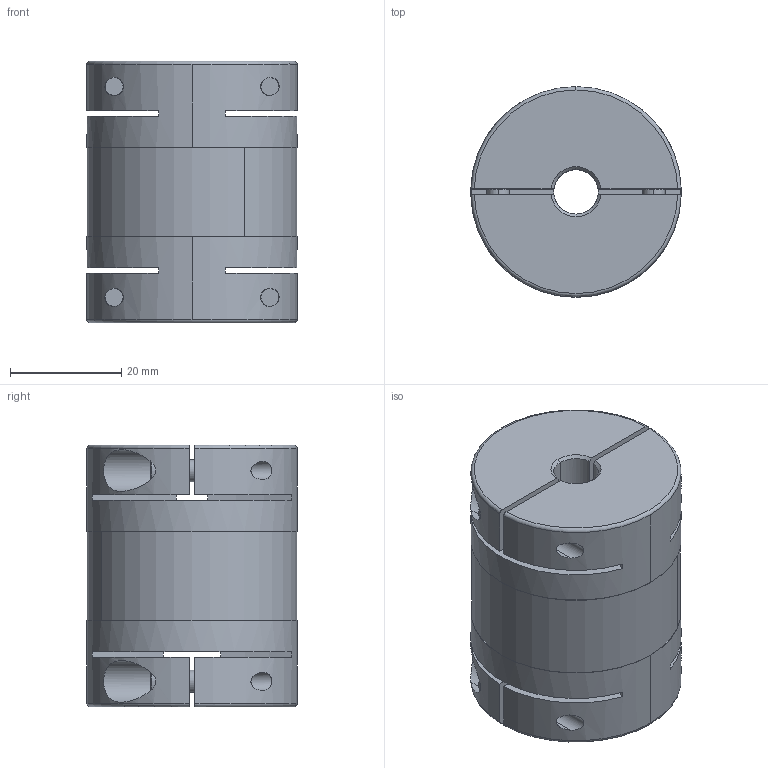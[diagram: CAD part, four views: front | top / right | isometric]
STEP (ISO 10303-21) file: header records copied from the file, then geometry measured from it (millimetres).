
FILE_DESCRIPTION (( 'STEP AP203' ), '1' );
FILE_NAME ('SHR-38C-8X12_203.STEP', '2013-05-19T05:02:22', ( 'Z77' ), ( '' ), 'SwSTEP 2.0', 'SolidWorks 2012', '' );
FILE_SCHEMA (( 'CONFIG_CONTROL_DESIGN' ));
Length unit declared in the file: millimetre
Products named in the file (1): SHR-38C-8X12_203
Bounding box: 37.8 x 37.8 x 47 mm (x, y, z)
Volume: 44675.6 mm3; surface area: 14864.6 mm2
Topology: 1 solids, 1 shells, 228 faces, 532 edges, 320 vertices
Faces by surface type: plane 92, cylinder 76, cone 30, torus 30
Entity records: 7035 total; most frequent: CARTESIAN_POINT 1637, DIRECTION 1204, ORIENTED_EDGE 1048, EDGE_CURVE 524, AXIS2_PLACEMENT_3D 483, VERTEX_POINT 320, EDGE_LOOP 260, CIRCLE 254
